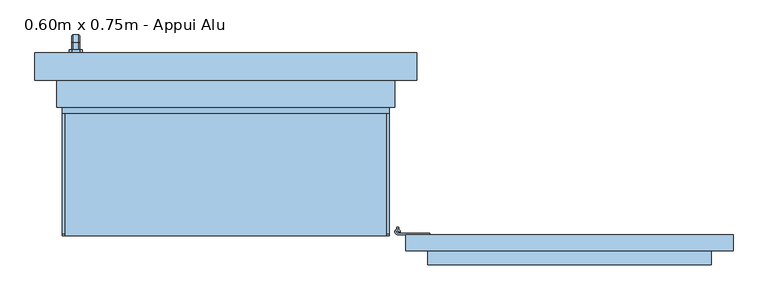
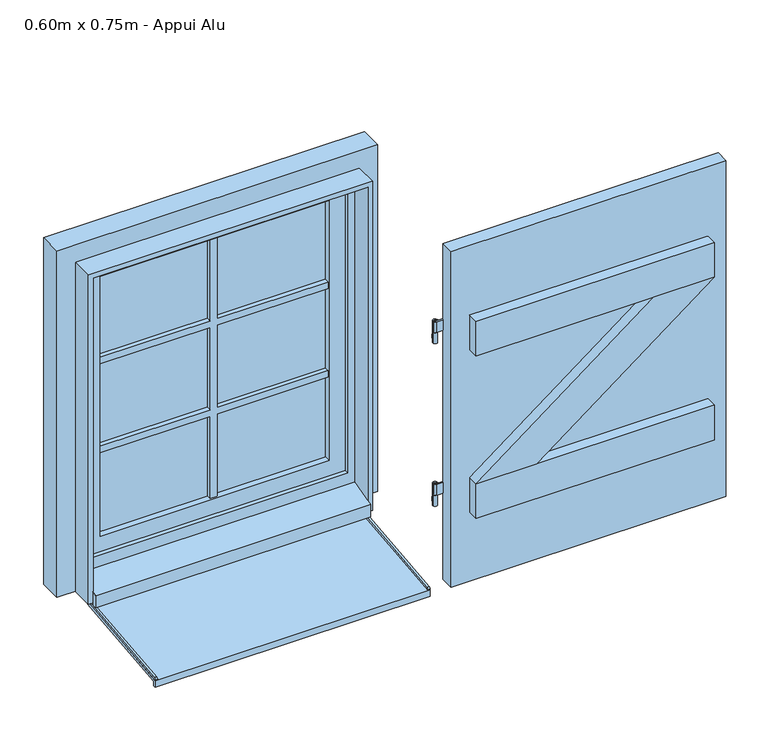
"""IFC4 building model written with IfcOpenShell, lengths in millimetres: window geometry, 1 Vantail droit - Volet et petits bois : 0.60m x 0.75m - Appui Alu."""

from ifc_helpers import new_model, si_unit, point, frame, frame_2d, origin, place, context, project, spatial, polyline, circle_curve, trimmed, segment, composite_curve, outline, extrude, faceted_brep, source, transform, mapped, element, save
from ifc_brep_helpers import plane_surface, cylinder_surface, advanced_brep


def window_0_60m_x_0_75m_appui_alu_97261319(model_context):
    return source(origin(), model_context, "Body", "SolidModel", [
        extrude(outline(polyline([(930.0, -173.0), (930.0, -203.0), (330.0, -203.0), (330.0, -173.0), (930.0, -173.0)])), frame((0.0, 0.0, 775.0), z_axis=(0.0, 0.0, 1.0), x_axis=(1.0, 0.0, 0.0)), (0.0, 0.0, 1.0), 775.0),
        advanced_brep(
        [(310.0, -168.0, 975.0), (320.0, -168.0, 975.0), (310.0, -168.0, 950.0), (320.0, -168.0, 950.0), (317.0, -163.4174243, 955.0), (317.0, -163.4174243, 965.0), (313.0, -163.4174243, 965.0), (313.0, -163.4174243, 955.0), (313.0, -160.0, 965.0), (317.0, -160.0, 965.0), (317.0, -160.0, 955.0), (313.0, -160.0, 955.0)],
        [
            (0, 1, circle_curve(frame((315.0, -168.0, 975.0), z_axis=(0.0, 0.0, 1.0), x_axis=(1.0, 0.0, 0.0)), 5.0)),
            (1, 0, circle_curve(frame((315.0, -168.0, 975.0), z_axis=(0.0, 0.0, 1.0), x_axis=(1.0, 0.0, 0.0)), 5.0)),
            (2, 3, circle_curve(frame((315.0, -168.0, 950.0), z_axis=(0.0, 0.0, -1.0), x_axis=(1.0, 0.0, 0.0)), 5.0)),
            (3, 2, circle_curve(frame((315.0, -168.0, 950.0), z_axis=(0.0, 0.0, -1.0), x_axis=(1.0, 0.0, 0.0)), 5.0)),
            (1, 3),
            (2, 0),
            (4, 5),
            (5, 6, circle_curve(frame((315.0, -168.0, 965.0), z_axis=(0.0, 0.0, 1.0), x_axis=(1.0, 0.0, 0.0)), 5.0)),
            (6, 7),
            (7, 4, circle_curve(frame((315.0, -168.0, 955.0), z_axis=(0.0, 0.0, -1.0), x_axis=(1.0, 0.0, 0.0)), 5.0)),
            (8, 6),
            (5, 9),
            (9, 8),
            (10, 4),
            (7, 11),
            (11, 10),
            (10, 9),
            (8, 11),
        ],
        [
            plane_surface(frame((320.0, -168.0, 975.0), z_axis=(0.0, 0.0, 1.0), x_axis=(0.0, -1.0, 0.0))),
            plane_surface(frame((320.0, -168.0, 950.0), z_axis=(0.0, 0.0, -1.0), x_axis=(0.0, 1.0, 0.0))),
            cylinder_surface(frame((315.0, -168.0, 950.0), z_axis=(0.0, 0.0, 1.0), x_axis=(1.0, 0.0, 0.0)), 5.0),
            plane_surface(frame((317.0, -160.0, 965.0), z_axis=(0.0, 0.0, 1.0), x_axis=(0.0, -1.0, 0.0))),
            plane_surface(frame((317.0, -160.0, 955.0), z_axis=(0.0, 0.0, -1.0), x_axis=(0.0, 1.0, 0.0))),
            plane_surface(frame((317.0, -160.0, 965.0), z_axis=(1.0, 0.0, 0.0), x_axis=(0.0, 0.0, -1.0))),
            plane_surface(frame((313.0, -165.0, 965.0), z_axis=(-1.0, 0.0, 0.0), x_axis=(0.0, 0.0, -1.0))),
            plane_surface(frame((313.0, -160.0, 965.0), z_axis=(0.0, 1.0, 0.0), x_axis=(0.0, 0.0, -1.0))),
        ],
        [
            (0, [[1, 2]]),
            (1, [[3, 4]]),
            (2, [[5, -3, 6, -2], [7, 8, 9, 10]]),
            (2, [[-6, -4, -5, -1]]),
            (3, [[11, -8, 12, 13]]),
            (4, [[14, -10, 15, 16]]),
            (5, [[-12, -7, -14, 17]]),
            (6, [[-15, -9, -11, 18]]),
            (7, [[-17, -16, -18, -13]]),
        ],
    ),
        extrude(outline(composite_curve([segment(trimmed(circle_curve(frame_2d((315.0, -168.0)), 5.0), [point((315.0, -173.0))], [point((320.0, -168.0))], False, "CARTESIAN"), True, "CONTINUOUS"), segment(polyline([(320.0, -168.0), (317.5, -168.0)]), True, "CONTINUOUS"), segment(trimmed(circle_curve(frame_2d((315.0, -168.0)), 2.5), [point((317.5, -168.0))], [point((315.0, -170.5))], True, "CARTESIAN"), True, "CONTINUOUS"), segment(polyline([(315.0, -170.5), (374.3092325, -170.5), (374.3092325, -173.0), (315.0, -173.0)]), True, "CONTINUOUS")], self_intersect=False)), frame((0.0, 0.0, 975.0), z_axis=(0.0, 0.0, 1.0), x_axis=(1.0, 0.0, 0.0)), (0.0, 0.0, 1.0), 25.0),
        extrude(outline(composite_curve([segment(trimmed(circle_curve(frame_2d((315.0, -168.0)), 2.5), [point((312.5, -168.0))], [point((317.5, -168.0))], False, "CARTESIAN"), True, "CONTINUOUS"), segment(trimmed(circle_curve(frame_2d((315.0, -168.0)), 2.5), [point((317.5, -168.0))], [point((312.5, -168.0))], False, "CARTESIAN"), True, "CONTINUOUS")], self_intersect=False)), frame((0.0, 0.0, 975.0), z_axis=(0.0, 0.0, 1.0), x_axis=(1.0, 0.0, 0.0)), (0.0, 0.0, 1.0), 25.0),
        advanced_brep(
        [(310.0, -168.0, 1350.0), (320.0, -168.0, 1350.0), (310.0, -168.0, 1325.0), (320.0, -168.0, 1325.0), (313.0, -163.4174243, 1340.0), (313.0, -163.4174243, 1330.0), (317.0, -163.4174243, 1330.0), (317.0, -163.4174243, 1340.0), (313.0, -160.0, 1340.0), (317.0, -160.0, 1340.0), (313.0, -160.0, 1330.0), (317.0, -160.0, 1330.0)],
        [
            (0, 1, circle_curve(frame((315.0, -168.0, 1350.0), z_axis=(0.0, 0.0, 1.0), x_axis=(1.0, 0.0, 0.0)), 5.0)),
            (1, 0, circle_curve(frame((315.0, -168.0, 1350.0), z_axis=(0.0, 0.0, 1.0), x_axis=(1.0, 0.0, 0.0)), 5.0)),
            (2, 3, circle_curve(frame((315.0, -168.0, 1325.0), z_axis=(0.0, 0.0, -1.0), x_axis=(1.0, 0.0, 0.0)), 5.0)),
            (3, 2, circle_curve(frame((315.0, -168.0, 1325.0), z_axis=(0.0, 0.0, -1.0), x_axis=(1.0, 0.0, 0.0)), 5.0)),
            (1, 3),
            (2, 0),
            (4, 5),
            (5, 6, circle_curve(frame((315.0, -168.0, 1330.0), z_axis=(0.0, 0.0, -1.0), x_axis=(1.0, 0.0, 0.0)), 5.0)),
            (6, 7),
            (7, 4, circle_curve(frame((315.0, -168.0, 1340.0), z_axis=(0.0, 0.0, 1.0), x_axis=(1.0, 0.0, 0.0)), 5.0)),
            (8, 4),
            (7, 9),
            (9, 8),
            (10, 11),
            (11, 6),
            (5, 10),
            (9, 11),
            (10, 8),
        ],
        [
            plane_surface(frame((320.0, -168.0, 1350.0), z_axis=(0.0, 0.0, 1.0), x_axis=(0.0, -1.0, 0.0))),
            plane_surface(frame((320.0, -168.0, 1325.0), z_axis=(0.0, 0.0, -1.0), x_axis=(0.0, 1.0, 0.0))),
            cylinder_surface(frame((315.0, -168.0, 1325.0), z_axis=(0.0, 0.0, 1.0), x_axis=(1.0, 0.0, 0.0)), 5.0),
            plane_surface(frame((313.0, -160.0, 1340.0), z_axis=(0.0, 0.0, 1.0), x_axis=(1.0, 0.0, 0.0))),
            plane_surface(frame((313.0, -160.0, 1330.0), z_axis=(0.0, 0.0, -1.0), x_axis=(-1.0, 0.0, 0.0))),
            plane_surface(frame((313.0, -160.0, 1340.0), z_axis=(0.0, 1.0, 0.0), x_axis=(0.0, 0.0, -1.0))),
            plane_surface(frame((317.0, -160.0, 1340.0), z_axis=(1.0, 0.0, 0.0), x_axis=(0.0, 0.0, -1.0))),
            plane_surface(frame((313.0, -163.4174243, 1340.0), z_axis=(-1.0, 0.0, 0.0), x_axis=(0.0, 0.0, -1.0))),
        ],
        [
            (0, [[1, 2]]),
            (1, [[3, 4]]),
            (2, [[5, -3, 6, -2], [7, 8, 9, 10]]),
            (2, [[-6, -4, -5, -1]]),
            (3, [[11, -10, 12, 13]]),
            (4, [[14, 15, -8, 16]]),
            (5, [[17, -14, 18, -13]]),
            (6, [[-9, -15, -17, -12]]),
            (7, [[-18, -16, -7, -11]]),
        ],
    ),
        extrude(outline(composite_curve([segment(trimmed(circle_curve(frame_2d((315.0, -168.0)), 5.0), [point((315.0, -173.0))], [point((320.0, -168.0))], False, "CARTESIAN"), True, "CONTINUOUS"), segment(polyline([(320.0, -168.0), (317.5, -168.0)]), True, "CONTINUOUS"), segment(trimmed(circle_curve(frame_2d((315.0, -168.0)), 2.5), [point((317.5, -168.0))], [point((315.0, -170.5))], True, "CARTESIAN"), True, "CONTINUOUS"), segment(polyline([(315.0, -170.5), (374.3092325, -170.5), (374.3092325, -173.0), (315.0, -173.0)]), True, "CONTINUOUS")], self_intersect=False)), frame((0.0, 0.0, 1350.0), z_axis=(0.0, 0.0, 1.0), x_axis=(1.0, 0.0, 0.0)), (0.0, 0.0, 1.0), 25.0),
        extrude(outline(composite_curve([segment(trimmed(circle_curve(frame_2d((315.0, -168.0)), 2.5), [point((312.5, -168.0))], [point((317.5, -168.0))], False, "CARTESIAN"), True, "CONTINUOUS"), segment(trimmed(circle_curve(frame_2d((315.0, -168.0)), 2.5), [point((317.5, -168.0))], [point((312.5, -168.0))], False, "CARTESIAN"), True, "CONTINUOUS")], self_intersect=False)), frame((0.0, 0.0, 1350.0), z_axis=(0.0, 0.0, 1.0), x_axis=(1.0, 0.0, 0.0)), (0.0, 0.0, 1.0), 25.0),
        extrude(outline(polyline([(1310.0, 890.0), (1310.0, 757.8528094), (1015.0, 370.0007252), (1015.0, 502.1479158), (1310.0, 890.0)])), frame((0.0, -228.0, 0.0), z_axis=(0.0, 1.0, 0.0), x_axis=(0.0, 0.0, 1.0)), (0.0, 0.0, 1.0), 25.0),
        extrude(outline(polyline([(370.0, -228.0), (370.0, -203.0), (890.0, -203.0), (890.0, -228.0), (370.0, -228.0)])), frame((0.0, 0.0, 1310.0), z_axis=(0.0, 0.0, 1.0), x_axis=(1.0, 0.0, 0.0)), (0.0, 0.0, 1.0), 80.0),
        extrude(outline(polyline([(370.0, -228.0), (370.0, -203.0), (890.0, -203.0), (890.0, -228.0), (370.0, -228.0)])), frame((0.0, 0.0, 935.0), z_axis=(0.0, 0.0, 1.0), x_axis=(1.0, 0.0, 0.0)), (0.0, 0.0, 1.0), 80.0),
        extrude(outline(polyline([(1310.0, -250.0), (1295.0, -250.0), (1295.0, -7.5), (1105.0, -7.5), (1105.0, -250.0), (1090.0, -250.0), (1090.0, -7.5), (900.0, -7.5), (900.0, 7.5), (1090.0, 7.5), (1090.0, 250.0), (1105.0, 250.0), (1105.0, 7.5), (1295.0, 7.5), (1295.0, 250.0), (1310.0, 250.0), (1310.0, 7.5), (1500.0, 7.5), (1500.0, -7.5), (1310.0, -7.5), (1310.0, -250.0)])), frame((0.0, 124.0, 0.0), z_axis=(0.0, 1.0, 0.0), x_axis=(0.0, 0.0, 1.0)), (0.0, 0.0, 1.0), 10.0),
        extrude(outline(polyline([(1310.0, -250.0), (1295.0, -250.0), (1295.0, -7.5), (1105.0, -7.5), (1105.0, -250.0), (1090.0, -250.0), (1090.0, -7.5), (900.0, -7.5), (900.0, 7.5), (1090.0, 7.5), (1090.0, 250.0), (1105.0, 250.0), (1105.0, 7.5), (1295.0, 7.5), (1295.0, 250.0), (1310.0, 250.0), (1310.0, 7.5), (1500.0, 7.5), (1500.0, -7.5), (1310.0, -7.5), (1310.0, -250.0)])), frame((0.0, 146.0, 0.0), z_axis=(0.0, 1.0, 0.0), x_axis=(0.0, 0.0, 1.0)), (0.0, 0.0, 1.0), 10.0),
        faceted_brep([(-269.3539903, 166.0, 1422.0339292), (-280.6460097, 166.0, 1422.0339292), (-282.0339292, 166.0, 1420.6460097), (-282.0339292, 166.0, 1409.3323012), (-280.6676988, 166.0, 1407.9660708), (-269.3323012, 166.0, 1407.9660708), (-267.9660708, 166.0, 1409.3323012), (-267.9660708, 166.0, 1420.6460097), (-267.9660708, 178.3386538, 1420.6460097), (-269.3539903, 178.9135489, 1422.0339292), (-267.9660708, 173.6523623, 1409.3323012), (-267.9660708, 180.3323012, 1402.6523623), (-267.9660708, 180.3323012, 1320.0), (-267.9660708, 191.6460097, 1320.0), (-267.9660708, 191.6460097, 1407.3386538), (-269.3323012, 173.0864511, 1407.9660708), (-280.6676988, 173.0864511, 1407.9660708), (-282.0339292, 173.6523623, 1409.3323012), (-282.0339292, 178.3386538, 1420.6460097), (-282.0339292, 191.6460097, 1407.3386538), (-282.0339292, 191.6460097, 1320.0), (-282.0339292, 180.3323012, 1320.0), (-282.0339292, 180.3323012, 1402.6523623), (-280.6460097, 178.9135489, 1422.0339292), (-269.3539903, 193.0339292, 1407.9135489), (-269.3323012, 178.9660708, 1402.0864511), (-280.6676988, 178.9660708, 1402.0864511), (-280.6460097, 193.0339292, 1407.9135489), (-269.3539903, 193.0339292, 1320.0), (-269.3323012, 178.9660708, 1320.0), (-280.6676988, 178.9660708, 1320.0), (-280.6460097, 193.0339292, 1320.0)], [[[0, 1, 2, 3, 4, 5, 6, 7]], [[7, 8, 9, 0]], [[6, 10, 11, 12, 13, 14, 8, 7]], [[5, 15, 10, 6]], [[4, 16, 15, 5]], [[3, 17, 16, 4]], [[2, 18, 19, 20, 21, 22, 17, 3]], [[1, 23, 18, 2]], [[0, 9, 23, 1]], [[8, 14, 24, 9]], [[15, 25, 11, 10]], [[16, 26, 25, 15]], [[17, 22, 26, 16]], [[23, 27, 19, 18]], [[9, 24, 27, 23]], [[28, 13, 12, 29, 30, 21, 20, 31]], [[14, 13, 28, 24]], [[25, 29, 12, 11]], [[26, 30, 29, 25]], [[22, 21, 30, 26]], [[27, 31, 20, 19]], [[24, 28, 31, 27]]]),
        extrude(outline(polyline([(1440.0, -268.0), (1440.0, -282.0), (1435.0, -287.0), (1365.0, -287.0), (1360.0, -282.0), (1360.0, -268.0), (1365.0, -263.0), (1435.0, -263.0), (1440.0, -268.0)])), frame((0.0, 160.0, 0.0), z_axis=(0.0, 1.0, 0.0), x_axis=(0.0, 0.0, 1.0)), (0.0, 0.0, 1.0), 6.0),
        extrude(outline(polyline([(-175.0, 763.4536318), (75.0, 789.7296906), (75.0, 800.0), (80.0, 800.0), (80.0, 785.0), (-170.0, 758.7239412), (-170.0, 748.4234365), (-175.0, 747.8979153), (-175.0, 763.4536318)])), frame((-300.0, 0.0, 0.0), z_axis=(1.0, 0.0, 0.0), x_axis=(0.0, 1.0, 0.0)), (0.0, 0.0, 1.0), 600.0),
        extrude(outline(composite_curve([segment(polyline([(-175.0, 763.4536318), (-175.0, 764.879557)]), True, "CONTINUOUS"), segment(trimmed(circle_curve(frame_2d((-171.0, 764.879557)), 4.0), [point((-175.0, 764.879557))], [point((-171.4181139, 768.8576446))], False, "CARTESIAN"), True, "CONTINUOUS"), segment(polyline([(-171.4181139, 768.8576446), (75.0, 794.757232), (75.0, 789.7296906), (-175.0, 763.4536318)]), True, "CONTINUOUS")], self_intersect=False)), frame((-300.0, 0.0, 0.0), z_axis=(1.0, 0.0, 0.0), x_axis=(0.0, 1.0, 0.0)), (0.0, 0.0, 1.0), 5.0),
        extrude(outline(composite_curve([segment(polyline([(-175.0, 763.4536318), (-175.0, 764.879557)]), True, "CONTINUOUS"), segment(trimmed(circle_curve(frame_2d((-171.0, 764.879557)), 4.0), [point((-175.0, 764.879557))], [point((-171.4181139, 768.8576446))], False, "CARTESIAN"), True, "CONTINUOUS"), segment(polyline([(-171.4181139, 768.8576446), (75.0, 794.757232), (75.0, 789.7296906), (-175.0, 763.4536318)]), True, "CONTINUOUS")], self_intersect=False)), frame((295.0, 0.0, 0.0), z_axis=(1.0, 0.0, 0.0), x_axis=(0.0, 1.0, 0.0)), (0.0, 0.0, 1.0), 5.0),
        extrude(outline(polyline([(-250.0, 134.0), (-250.0, 146.0), (250.0, 146.0), (250.0, 134.0), (-250.0, 134.0)])), frame((0.0, 0.0, 900.0), z_axis=(0.0, 0.0, 1.0), x_axis=(1.0, 0.0, 0.0)), (0.0, 0.0, 1.0), 600.0),
        extrude(outline(polyline([(850.0, -300.0), (850.0, 300.0), (1550.0, 300.0), (1550.0, -300.0), (850.0, -300.0)]), holes=[polyline([(900.0, 250.0), (900.0, -250.0), (1500.0, -250.0), (1500.0, 250.0), (900.0, 250.0)])]), frame((0.0, 120.0, 0.0), z_axis=(0.0, 1.0, 0.0), x_axis=(0.0, 0.0, 1.0)), (0.0, 0.0, 1.0), 40.0),
        faceted_brep([(-350.0, 160.0, 800.0), (350.0, 160.0, 800.0), (350.0, 110.0, 800.0), (300.0, 110.0, 800.0), (300.0, 60.0, 800.0), (-300.0, 60.0, 800.0), (-300.0, 110.0, 800.0), (-350.0, 110.0, 800.0), (-350.0, 110.0, 1600.0), (-350.0, 160.0, 1600.0), (-300.0, 110.0, 839.3761425), (300.0, 110.0, 839.3761425), (350.0, 110.0, 1600.0), (-285.0, 110.0, 1535.0), (285.0, 110.0, 1535.0), (285.0, 110.0, 865.0), (-285.0, 110.0, 865.0), (-300.0, 60.0, 795.0), (-300.0, 50.0, 795.0), (-300.0, 50.0, 823.2991909), (300.0, 60.0, 795.0), (300.0, 50.0, 823.2991909), (300.0, 50.0, 795.0), (350.0, 160.0, 1600.0), (300.0, 160.0, 1550.0), (-300.0, 160.0, 1550.0), (-300.0, 160.0, 850.0), (300.0, 160.0, 850.0), (-285.0, 120.0, 865.0), (-285.0, 120.0, 1535.0), (285.0, 120.0, 865.0), (285.0, 120.0, 1535.0), (300.0, 120.0, 1550.0), (300.0, 120.0, 850.0), (-300.0, 120.0, 850.0), (-300.0, 120.0, 1550.0)], [[[0, 1, 2, 3, 4, 5, 6, 7]], [[7, 8, 9, 0]], [[7, 6, 10, 11, 3, 2, 12, 8], [13, 14, 15, 16]], [[10, 6, 5, 17, 18, 19]], [[5, 4, 20, 17]], [[4, 3, 11, 21, 22, 20]], [[2, 1, 23, 12]], [[0, 9, 23, 1], [24, 25, 26, 27]], [[13, 16, 28, 29]], [[28, 16, 15, 30]], [[31, 30, 15, 14]], [[19, 21, 11, 10]], [[32, 33, 34, 35], [29, 28, 30, 31]], [[34, 26, 25, 35]], [[26, 34, 33, 27]], [[24, 27, 33, 32]], [[18, 22, 21, 19]], [[17, 20, 22, 18]], [[13, 29, 31, 14]], [[35, 25, 24, 32]], [[12, 23, 9, 8]]]),
        extrude(outline(polyline([(800.0, -300.0), (1550.0, -300.0), (1550.0, 300.0), (800.0, 300.0), (800.0, 310.0), (1560.0, 310.0), (1560.0, -310.0), (800.0, -310.0), (800.0, -300.0)])), frame((0.0, 60.0, 0.0), z_axis=(0.0, 1.0, 0.0), x_axis=(0.0, 0.0, 1.0)), (0.0, 0.0, 1.0), 50.0),
    ])


if __name__ == "__main__":
    model = new_model("IFC4")
    model_context = context("Model", 3, world=origin())
    ifc_project = project(units=[si_unit("LENGTHUNIT", "METRE", prefix="MILLI")], contexts=[model_context])
    site = spatial("IfcSite", under=ifc_project)
    building = spatial("IfcBuilding", under=site)
    placement = place(None, origin())
    window_0_60m_x_0_75m_appui_alu_shape = window_0_60m_x_0_75m_appui_alu_97261319(model_context)
    element("IfcWindow", 1, ObjectType="1 Vantail droit - Volet et petits bois : 0.60m x 0.75m - Appui Alu", at=placement, inside=building, context=model_context, shape_type="MappedRepresentation", body=[
        mapped(window_0_60m_x_0_75m_appui_alu_shape, transform((0.0, 0.0, 0.0), x_axis=(1.0, 0.0, 0.0), y_axis=(0.0, 1.0, 0.0), z_axis=(0.0, 0.0, 1.0))),
    ])
    save(model, "model.ifc")
